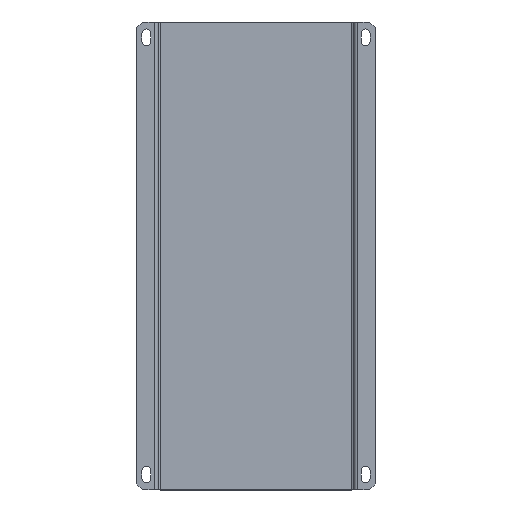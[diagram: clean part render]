
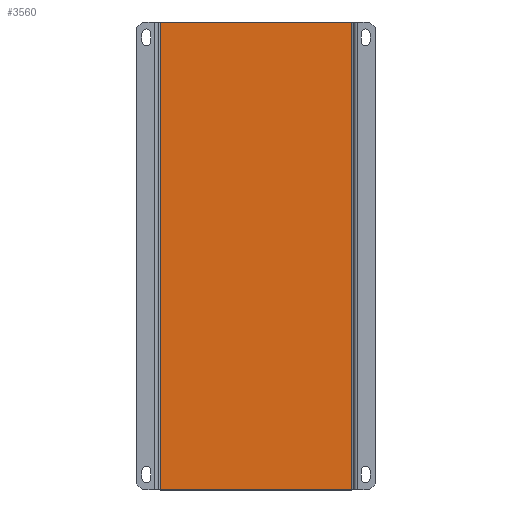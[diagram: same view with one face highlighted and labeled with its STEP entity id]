
A CAD part, top view. The second image highlights one B-rep face of the part: STEP entity #3560.
In plain terms, the highlighted planar face has unit normal (0, 0, 1).
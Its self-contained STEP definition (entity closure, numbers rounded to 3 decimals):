
#842 = EDGE_LOOP ( 'NONE', ( #3191, #7639, #1686, #6945 ) ) ;
#1125 = AXIS2_PLACEMENT_3D ( 'NONE', #8318, #7445, #2215 ) ;
#1182 = VERTEX_POINT ( 'NONE', #6149 ) ;
#1201 = LINE ( 'NONE', #2201, #3630 ) ;
#1362 = VERTEX_POINT ( 'NONE', #7919 ) ;
#1390 = PLANE ( 'NONE',  #1125 ) ;
#1425 = EDGE_CURVE ( 'NONE', #1182, #1362, #1201, .T. ) ;
#1448 = VECTOR ( 'NONE', #10274, 1000. ) ;
#1686 = ORIENTED_EDGE ( 'NONE', *, *, #4918, .F. ) ;
#2201 = CARTESIAN_POINT ( 'NONE',  ( 96., 470., -23. ) ) ;
#2215 = DIRECTION ( 'NONE',  ( -1., 0., 0. ) ) ;
#2367 = LINE ( 'NONE', #5897, #8162 ) ;
#2386 = FACE_OUTER_BOUND ( 'NONE', #842, .T. ) ;
#3047 = VECTOR ( 'NONE', #11096, 1000. ) ;
#3191 = ORIENTED_EDGE ( 'NONE', *, *, #4708, .T. ) ;
#3560 = ADVANCED_FACE ( 'NONE', ( #2386 ), #1390, .F. ) ;
#3630 = VECTOR ( 'NONE', #8096, 1000. ) ;
#4158 = DIRECTION ( 'NONE',  ( 1., 0., 0. ) ) ;
#4559 = VERTEX_POINT ( 'NONE', #10562 ) ;
#4699 = CARTESIAN_POINT ( 'NONE',  ( -96., 470., -23. ) ) ;
#4708 = EDGE_CURVE ( 'NONE', #4559, #1362, #2367, .T. ) ;
#4918 = EDGE_CURVE ( 'NONE', #6131, #1182, #9900, .T. ) ;
#5897 = CARTESIAN_POINT ( 'NONE',  ( -96., 0., -23. ) ) ;
#6131 = VERTEX_POINT ( 'NONE', #4699 ) ;
#6149 = CARTESIAN_POINT ( 'NONE',  ( 96., 470., -23. ) ) ;
#6945 = ORIENTED_EDGE ( 'NONE', *, *, #8958, .T. ) ;
#7445 = DIRECTION ( 'NONE',  ( 0., 0., -1. ) ) ;
#7639 = ORIENTED_EDGE ( 'NONE', *, *, #1425, .F. ) ;
#7919 = CARTESIAN_POINT ( 'NONE',  ( 96., 0., -23. ) ) ;
#8096 = DIRECTION ( 'NONE',  ( 0., -1., 0. ) ) ;
#8162 = VECTOR ( 'NONE', #4158, 1000. ) ;
#8318 = CARTESIAN_POINT ( 'NONE',  ( -96., 470., -23. ) ) ;
#8958 = EDGE_CURVE ( 'NONE', #6131, #4559, #10353, .T. ) ;
#9304 = CARTESIAN_POINT ( 'NONE',  ( -96., 470., -23. ) ) ;
#9900 = LINE ( 'NONE', #11220, #3047 ) ;
#10274 = DIRECTION ( 'NONE',  ( 0., -1., 0. ) ) ;
#10353 = LINE ( 'NONE', #9304, #1448 ) ;
#10562 = CARTESIAN_POINT ( 'NONE',  ( -96., 0., -23. ) ) ;
#11096 = DIRECTION ( 'NONE',  ( 1., 0., 0. ) ) ;
#11220 = CARTESIAN_POINT ( 'NONE',  ( -96., 470., -23. ) ) ;
